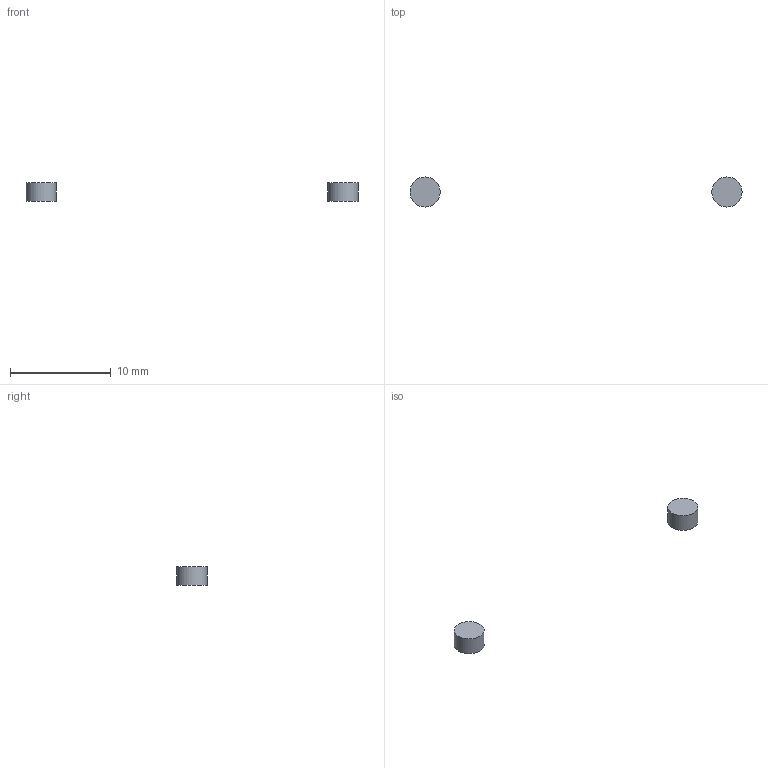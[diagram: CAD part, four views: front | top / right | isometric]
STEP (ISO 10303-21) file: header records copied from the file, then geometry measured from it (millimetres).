
FILE_DESCRIPTION(('Open CASCADE Model'),'2;1');
FILE_NAME('Open CASCADE Shape Model','2026-09-06T11:30:50',('Author'),( 'Open CASCADE'),'Open CASCADE STEP processor 7.7','Open CASCADE 7.7' ,'Unknown');
FILE_SCHEMA(('AUTOMOTIVE_DESIGN { 1 0 10303 214 1 1 1 1 }'));
Length unit declared in the file: millimetre
Products named in the file (3): Open CASCADE STEP translator 7.7 31; Open CASCADE STEP translator 7.7 31.1; Open CASCADE STEP translator 7.7 31.2
Assembly tree (2 placements, depth 2):
  Open CASCADE STEP translator 7.7 31
    Open CASCADE STEP translator 7.7 31.1
    Open CASCADE STEP translator 7.7 31.2
Bounding box: 33 x 3 x 1.8 mm (x, y, z)
Volume: 25.4 mm3; surface area: 62.2 mm2
Topology: 2 solids, 2 shells, 6 faces, 6 edges, 4 vertices
Faces by surface type: plane 4, cylinder 2
Full cylindrical faces by diameter (mm): 3 x2
Entity records: 236 total; most frequent: DIRECTION 40, CARTESIAN_POINT 31, AXIS2_PLACEMENT_3D 13, ORIENTED_EDGE 12, PCURVE 12, DEFINITIONAL_REPRESENTATION 12, LINE 10, VECTOR 10
